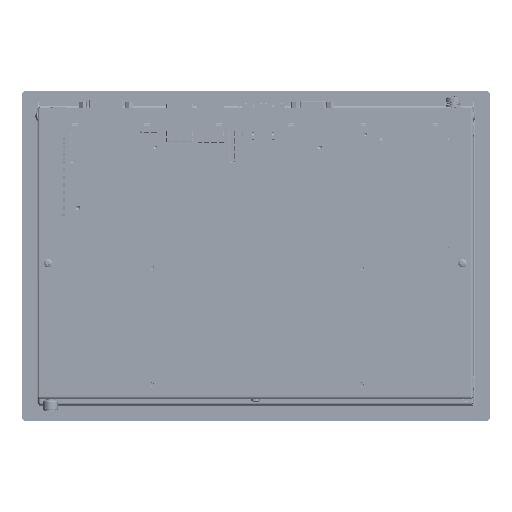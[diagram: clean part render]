
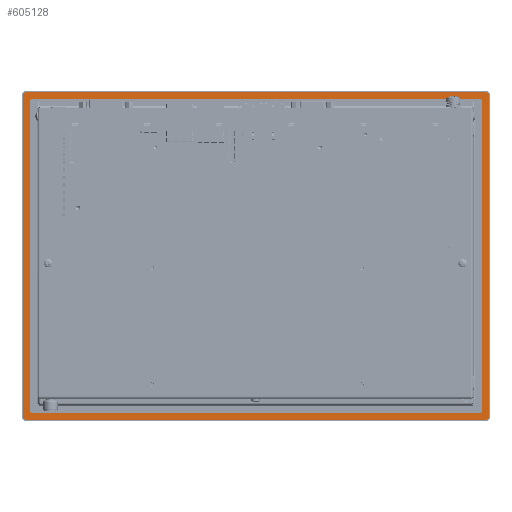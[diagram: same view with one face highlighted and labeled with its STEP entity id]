
A CAD part, front view. The second image highlights one B-rep face of the part: STEP entity #605128.
In plain terms, the highlighted planar face has unit normal (0, -1, 0).
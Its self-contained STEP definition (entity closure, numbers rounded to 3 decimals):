
#4536 = CARTESIAN_POINT ( 'NONE',  ( 158.5, 0.5, -106. ) ) ;
#5948 = CARTESIAN_POINT ( 'NONE',  ( 158.5, 0.5, 116. ) ) ;
#15928 = DIRECTION ( 'NONE',  ( -1., 0., 0. ) ) ;
#18554 = DIRECTION ( 'NONE',  ( 0., -1., 0. ) ) ;
#22923 = VERTEX_POINT ( 'NONE', #471643 ) ;
#24352 = VERTEX_POINT ( 'NONE', #508519 ) ;
#27042 = CARTESIAN_POINT ( 'NONE',  ( 164.5, 0.5, 119. ) ) ;
#30488 = ORIENTED_EDGE ( 'NONE', *, *, #452694, .F. ) ;
#37495 = DIRECTION ( 'NONE',  ( 0., 1., 0. ) ) ;
#49083 = LINE ( 'NONE', #638250, #591942 ) ;
#49164 = PLANE ( 'NONE',  #572674 ) ;
#49229 = CARTESIAN_POINT ( 'NONE',  ( 159.5, 0.5, -105. ) ) ;
#50190 = EDGE_CURVE ( 'NONE', #280210, #24352, #693116, .T. ) ;
#50799 = ORIENTED_EDGE ( 'NONE', *, *, #355545, .F. ) ;
#50997 = EDGE_CURVE ( 'NONE', #24352, #652142, #468727, .T. ) ;
#58362 = VECTOR ( 'NONE', #562032, 1000. ) ;
#97315 = VERTEX_POINT ( 'NONE', #116924 ) ;
#108384 = ORIENTED_EDGE ( 'NONE', *, *, #190747, .F. ) ;
#109691 = CARTESIAN_POINT ( 'NONE',  ( 164.5, 0.5, -109. ) ) ;
#114071 = VECTOR ( 'NONE', #613091, 1000. ) ;
#116924 = CARTESIAN_POINT ( 'NONE',  ( -164.5, 0.5, 119. ) ) ;
#120091 = ORIENTED_EDGE ( 'NONE', *, *, #584699, .F. ) ;
#125530 = CARTESIAN_POINT ( 'NONE',  ( -158.5, 0.5, -105. ) ) ;
#130129 = EDGE_CURVE ( 'NONE', #471355, #477532, #525250, .T. ) ;
#131285 = DIRECTION ( 'NONE',  ( 1., 0., 0. ) ) ;
#146376 = CIRCLE ( 'NONE', #352271, 2. ) ;
#152033 = CARTESIAN_POINT ( 'NONE',  ( -162.5, 0.5, -109. ) ) ;
#158068 = VERTEX_POINT ( 'NONE', #699106 ) ;
#158986 = DIRECTION ( 'NONE',  ( -1., 0., 0. ) ) ;
#161415 = DIRECTION ( 'NONE',  ( 0., 1., 0. ) ) ;
#163706 = CARTESIAN_POINT ( 'NONE',  ( -159.5, 0.5, -105. ) ) ;
#170270 = CARTESIAN_POINT ( 'NONE',  ( 162.5, 0.5, 119. ) ) ;
#177664 = DIRECTION ( 'NONE',  ( 0., 1., 0. ) ) ;
#189420 = DIRECTION ( 'NONE',  ( 0., 0., -1. ) ) ;
#190747 = EDGE_CURVE ( 'NONE', #158068, #527471, #49083, .T. ) ;
#199529 = CIRCLE ( 'NONE', #418389, 2. ) ;
#202917 = CARTESIAN_POINT ( 'NONE',  ( 162.5, 0.5, -109. ) ) ;
#203674 = ORIENTED_EDGE ( 'NONE', *, *, #213947, .F. ) ;
#213947 = EDGE_CURVE ( 'NONE', #575461, #307567, #231374, .T. ) ;
#214957 = CARTESIAN_POINT ( 'NONE',  ( -158.5, 0.5, -106. ) ) ;
#225724 = DIRECTION ( 'NONE',  ( 0., -1., 0. ) ) ;
#231374 = CIRCLE ( 'NONE', #457182, 2. ) ;
#243505 = CARTESIAN_POINT ( 'NONE',  ( -162.5, 0.5, 121. ) ) ;
#256858 = DIRECTION ( 'NONE',  ( 0., -1., 0. ) ) ;
#267568 = LINE ( 'NONE', #5948, #695430 ) ;
#267972 = VERTEX_POINT ( 'NONE', #109691 ) ;
#271972 = ORIENTED_EDGE ( 'NONE', *, *, #695309, .F. ) ;
#273891 = CARTESIAN_POINT ( 'NONE',  ( -158.5, 0.5, 115. ) ) ;
#274671 = EDGE_LOOP ( 'NONE', ( #429107, #30488, #638623, #694677, #464277, #50799, #407824, #427095 ) ) ;
#278744 = DIRECTION ( 'NONE',  ( 0., 0., 1. ) ) ;
#280210 = VERTEX_POINT ( 'NONE', #4536 ) ;
#281283 = CARTESIAN_POINT ( 'NONE',  ( -159.5, 0.5, 115. ) ) ;
#290644 = VECTOR ( 'NONE', #131285, 1000. ) ;
#307567 = VERTEX_POINT ( 'NONE', #27042 ) ;
#311629 = CARTESIAN_POINT ( 'NONE',  ( 158.5, 0.5, -105. ) ) ;
#314809 = DIRECTION ( 'NONE',  ( 1., 0., 0. ) ) ;
#324078 = VERTEX_POINT ( 'NONE', #527999 ) ;
#333515 = DIRECTION ( 'NONE',  ( 0., -1., 0. ) ) ;
#337927 = DIRECTION ( 'NONE',  ( 0., -1., 0. ) ) ;
#347245 = VERTEX_POINT ( 'NONE', #627989 ) ;
#352271 = AXIS2_PLACEMENT_3D ( 'NONE', #554653, #161415, #158986 ) ;
#355545 = EDGE_CURVE ( 'NONE', #652142, #324078, #500230, .T. ) ;
#361579 = FACE_OUTER_BOUND ( 'NONE', #603441, .T. ) ;
#373931 = VECTOR ( 'NONE', #577179, 1000. ) ;
#390374 = CARTESIAN_POINT ( 'NONE',  ( -164.5, 0.5, -109. ) ) ;
#405885 = FACE_BOUND ( 'NONE', #274671, .T. ) ;
#407824 = ORIENTED_EDGE ( 'NONE', *, *, #50997, .F. ) ;
#415399 = LINE ( 'NONE', #669428, #700515 ) ;
#417205 = CARTESIAN_POINT ( 'NONE',  ( -158.5, 0.5, -106. ) ) ;
#418389 = AXIS2_PLACEMENT_3D ( 'NONE', #152033, #37495, #189420 ) ;
#426806 = DIRECTION ( 'NONE',  ( 0., 1., 0. ) ) ;
#427095 = ORIENTED_EDGE ( 'NONE', *, *, #50190, .F. ) ;
#429107 = ORIENTED_EDGE ( 'NONE', *, *, #469918, .F. ) ;
#447500 = DIRECTION ( 'NONE',  ( 0., 0., 1. ) ) ;
#452694 = EDGE_CURVE ( 'NONE', #477532, #473493, #519843, .T. ) ;
#452775 = LINE ( 'NONE', #214957, #114071 ) ;
#457182 = AXIS2_PLACEMENT_3D ( 'NONE', #170270, #177664, #575755 ) ;
#459862 = LINE ( 'NONE', #243505, #290644 ) ;
#462274 = ORIENTED_EDGE ( 'NONE', *, *, #515255, .F. ) ;
#464277 = ORIENTED_EDGE ( 'NONE', *, *, #479329, .F. ) ;
#468727 = LINE ( 'NONE', #49229, #718194 ) ;
#469918 = EDGE_CURVE ( 'NONE', #473493, #280210, #452775, .T. ) ;
#471355 = VERTEX_POINT ( 'NONE', #721851 ) ;
#471643 = CARTESIAN_POINT ( 'NONE',  ( -162.5, 0.5, 121. ) ) ;
#473493 = VERTEX_POINT ( 'NONE', #417205 ) ;
#477532 = VERTEX_POINT ( 'NONE', #163706 ) ;
#478373 = CIRCLE ( 'NONE', #638135, 2. ) ;
#479329 = EDGE_CURVE ( 'NONE', #324078, #347245, #267568, .T. ) ;
#496966 = AXIS2_PLACEMENT_3D ( 'NONE', #514211, #225724, #686160 ) ;
#500230 = CIRCLE ( 'NONE', #496966, 1. ) ;
#504483 = CARTESIAN_POINT ( 'NONE',  ( 162.5, 0.5, 121. ) ) ;
#508519 = CARTESIAN_POINT ( 'NONE',  ( 159.5, 0.5, -105. ) ) ;
#511257 = DIRECTION ( 'NONE',  ( -1., 0., 0. ) ) ;
#514211 = CARTESIAN_POINT ( 'NONE',  ( 158.5, 0.5, 115. ) ) ;
#515255 = EDGE_CURVE ( 'NONE', #22923, #575461, #459862, .T. ) ;
#517392 = CARTESIAN_POINT ( 'NONE',  ( -162.5, 0.5, -111. ) ) ;
#519843 = CIRCLE ( 'NONE', #544031, 1. ) ;
#525250 = LINE ( 'NONE', #281283, #373931 ) ;
#527471 = VERTEX_POINT ( 'NONE', #517392 ) ;
#527999 = CARTESIAN_POINT ( 'NONE',  ( 158.5, 0.5, 116. ) ) ;
#541156 = EDGE_CURVE ( 'NONE', #582259, #97315, #646247, .T. ) ;
#544031 = AXIS2_PLACEMENT_3D ( 'NONE', #125530, #18554, #638430 ) ;
#554653 = CARTESIAN_POINT ( 'NONE',  ( -162.5, 0.5, 119. ) ) ;
#562032 = DIRECTION ( 'NONE',  ( 0., 0., 1. ) ) ;
#572674 = AXIS2_PLACEMENT_3D ( 'NONE', #619198, #337927, #614296 ) ;
#575461 = VERTEX_POINT ( 'NONE', #504483 ) ;
#575755 = DIRECTION ( 'NONE',  ( 0., 0., 1. ) ) ;
#577179 = DIRECTION ( 'NONE',  ( 0., 0., -1. ) ) ;
#578549 = ORIENTED_EDGE ( 'NONE', *, *, #681443, .F. ) ;
#582259 = VERTEX_POINT ( 'NONE', #726934 ) ;
#584699 = EDGE_CURVE ( 'NONE', #97315, #22923, #146376, .T. ) ;
#591942 = VECTOR ( 'NONE', #15928, 1000. ) ;
#593740 = ORIENTED_EDGE ( 'NONE', *, *, #703651, .F. ) ;
#597808 = CIRCLE ( 'NONE', #732056, 1. ) ;
#603441 = EDGE_LOOP ( 'NONE', ( #271972, #203674, #462274, #120091, #701172, #593740, #108384, #578549 ) ) ;
#605128 = ADVANCED_FACE ( 'NONE', ( #405885, #361579 ), #49164, .T. ) ;
#613091 = DIRECTION ( 'NONE',  ( 1., 0., 0. ) ) ;
#614296 = DIRECTION ( 'NONE',  ( -1., 0., 0. ) ) ;
#616970 = DIRECTION ( 'NONE',  ( 0., 0., -1. ) ) ;
#619198 = CARTESIAN_POINT ( 'NONE',  ( 0., 0.5, 0. ) ) ;
#627989 = CARTESIAN_POINT ( 'NONE',  ( -158.5, 0.5, 116. ) ) ;
#632204 = EDGE_CURVE ( 'NONE', #347245, #471355, #597808, .T. ) ;
#638135 = AXIS2_PLACEMENT_3D ( 'NONE', #202917, #426806, #314809 ) ;
#638250 = CARTESIAN_POINT ( 'NONE',  ( 162.5, 0.5, -111. ) ) ;
#638430 = DIRECTION ( 'NONE',  ( -1., 0., 0. ) ) ;
#638623 = ORIENTED_EDGE ( 'NONE', *, *, #130129, .F. ) ;
#646247 = LINE ( 'NONE', #390374, #58362 ) ;
#652142 = VERTEX_POINT ( 'NONE', #736107 ) ;
#655151 = DIRECTION ( 'NONE',  ( 0., 0., -1. ) ) ;
#669428 = CARTESIAN_POINT ( 'NONE',  ( 164.5, 0.5, 119. ) ) ;
#681443 = EDGE_CURVE ( 'NONE', #267972, #158068, #478373, .T. ) ;
#686160 = DIRECTION ( 'NONE',  ( 1., 0., 0. ) ) ;
#693116 = CIRCLE ( 'NONE', #734967, 1. ) ;
#694677 = ORIENTED_EDGE ( 'NONE', *, *, #632204, .F. ) ;
#695309 = EDGE_CURVE ( 'NONE', #307567, #267972, #415399, .T. ) ;
#695430 = VECTOR ( 'NONE', #511257, 1000. ) ;
#699106 = CARTESIAN_POINT ( 'NONE',  ( 162.5, 0.5, -111. ) ) ;
#700515 = VECTOR ( 'NONE', #616970, 1000. ) ;
#701172 = ORIENTED_EDGE ( 'NONE', *, *, #541156, .F. ) ;
#703651 = EDGE_CURVE ( 'NONE', #527471, #582259, #199529, .T. ) ;
#718194 = VECTOR ( 'NONE', #447500, 1000. ) ;
#721851 = CARTESIAN_POINT ( 'NONE',  ( -159.5, 0.5, 115. ) ) ;
#726934 = CARTESIAN_POINT ( 'NONE',  ( -164.5, 0.5, -109. ) ) ;
#732056 = AXIS2_PLACEMENT_3D ( 'NONE', #273891, #333515, #278744 ) ;
#734967 = AXIS2_PLACEMENT_3D ( 'NONE', #311629, #256858, #655151 ) ;
#736107 = CARTESIAN_POINT ( 'NONE',  ( 159.5, 0.5, 115. ) ) ;
